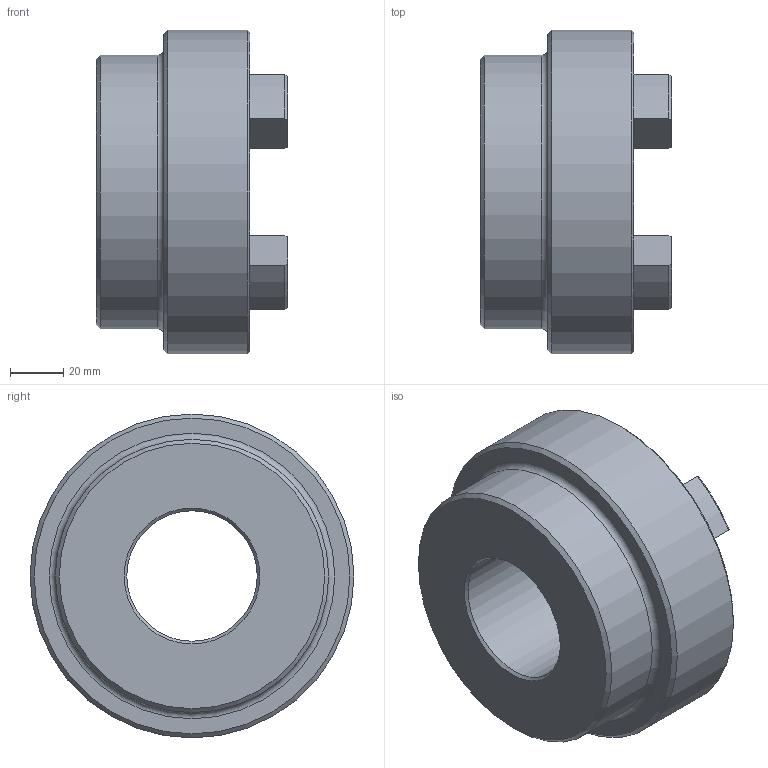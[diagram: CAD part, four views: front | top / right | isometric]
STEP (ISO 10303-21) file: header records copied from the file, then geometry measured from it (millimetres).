
FILE_DESCRIPTION (( 'STEP AP203' ), '1' );
FILE_NAME ('RC5.step', '2024-07-25T13:37:50', ( 'Adlan' ), ( '' ), 'SwSTEP 2.0', 'SolidWorks 2013', '' );
FILE_SCHEMA (( 'CONFIG_CONTROL_DESIGN' ));
Length unit declared in the file: inch
Products named in the file (1): RC5
Bounding box: 72.14 x 122.17 x 122.17 mm (x, y, z)
Volume: 401197.3 mm3; surface area: 58254.7 mm2
Topology: 1 solids, 1 shells, 76 faces, 189 edges, 117 vertices
Faces by surface type: cylinder 31, torus 17, plane 16, cone 12
Full cylindrical faces by diameter (mm): 49.225 x1, 103.124 x1, 122.174 x1
Entity records: 2349 total; most frequent: CARTESIAN_POINT 443, DIRECTION 416, ORIENTED_EDGE 358, EDGE_CURVE 179, AXIS2_PLACEMENT_3D 168, VERTEX_POINT 115, CIRCLE 91, EDGE_LOOP 88
